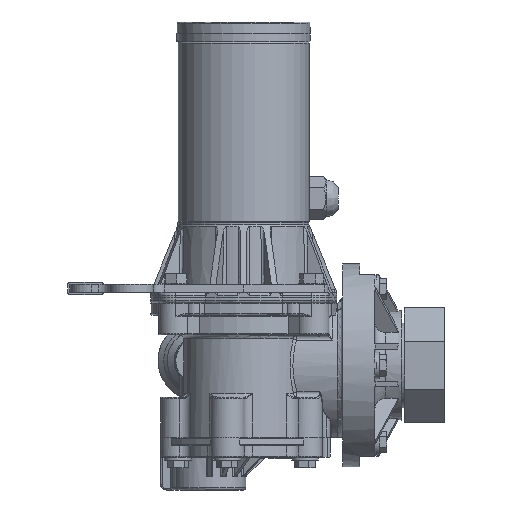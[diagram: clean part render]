
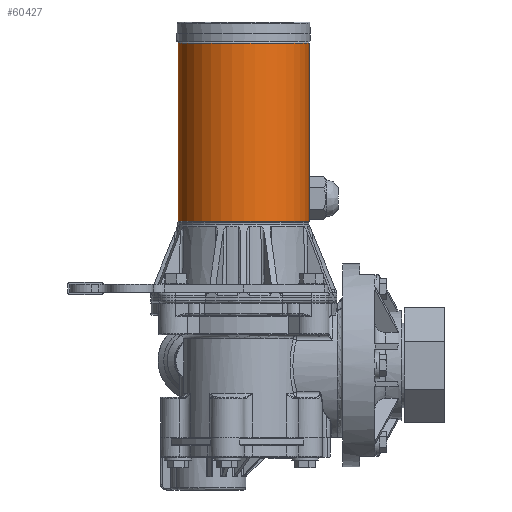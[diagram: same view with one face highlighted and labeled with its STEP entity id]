
A CAD part, left-side view. The second image highlights one B-rep face of the part: STEP entity #60427.
In plain terms, the highlighted cylindrical face has radius 38.976 mm (diameter 77.953 mm), a full revolution.
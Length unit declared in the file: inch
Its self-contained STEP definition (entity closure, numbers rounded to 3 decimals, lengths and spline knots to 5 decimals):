
#209=ELLIPSE('',#64048,4.48658,1.5345);
#210=ELLIPSE('',#64053,4.48658,1.5345);
#7540=LINE('',#112468,#12674);
#7544=LINE('',#112480,#12678);
#7546=LINE('',#112489,#12680);
#7547=LINE('',#112492,#12681);
#7548=LINE('',#112493,#12682);
#7549=LINE('',#112495,#12683);
#7550=LINE('',#112498,#12684);
#7551=LINE('',#112502,#12685);
#12674=VECTOR('',#75361,0.3937);
#12678=VECTOR('',#75375,0.3937);
#12680=VECTOR('',#75385,0.3937);
#12681=VECTOR('',#75388,1.5345);
#12682=VECTOR('',#75389,1.5345);
#12683=VECTOR('',#75390,0.3937);
#12684=VECTOR('',#75393,0.3937);
#12685=VECTOR('',#75396,0.3937);
#15978=FACE_OUTER_BOUND('',#19430,.T.);
#19430=EDGE_LOOP('',(#50448,#50449,#50450,#50451,#50452,#50453,#50454,#50455,
#50456,#50457,#50458,#50459,#50460,#50461,#50462,#50463,#50464,#50465,#50466,
#50467,#50468,#50469));
#21061=CIRCLE('',#64044,1.5345);
#21062=CIRCLE('',#64045,1.5345);
#21063=CIRCLE('',#64050,1.5345);
#21064=CIRCLE('',#64055,1.5345);
#21065=CIRCLE('',#64058,1.5345);
#21066=CIRCLE('',#64059,1.5345);
#21067=CIRCLE('',#64061,1.5345);
#21068=CIRCLE('',#64062,1.5345);
#21069=CIRCLE('',#64063,1.5345);
#21070=CIRCLE('',#64064,1.5345);
#27706=VERTEX_POINT('',#112428);
#27707=VERTEX_POINT('',#112430);
#27710=VERTEX_POINT('',#112438);
#27718=VERTEX_POINT('',#112457);
#27719=VERTEX_POINT('',#112458);
#27720=VERTEX_POINT('',#112463);
#27721=VERTEX_POINT('',#112467);
#27722=VERTEX_POINT('',#112471);
#27723=VERTEX_POINT('',#112475);
#27724=VERTEX_POINT('',#112479);
#27725=VERTEX_POINT('',#112483);
#27726=VERTEX_POINT('',#112487);
#27727=VERTEX_POINT('',#112488);
#27728=VERTEX_POINT('',#112490);
#27729=VERTEX_POINT('',#112494);
#27730=VERTEX_POINT('',#112496);
#27731=VERTEX_POINT('',#112499);
#27732=VERTEX_POINT('',#112501);
#35445=EDGE_CURVE('',#27706,#27707,#21061,.T.);
#35449=EDGE_CURVE('',#27710,#27706,#21062,.T.);
#35457=EDGE_CURVE('',#27718,#27719,#209,.T.);
#35460=EDGE_CURVE('',#27719,#27720,#21063,.T.);
#35462=EDGE_CURVE('',#27720,#27721,#7540,.T.);
#35464=EDGE_CURVE('',#27722,#27718,#210,.T.);
#35466=EDGE_CURVE('',#27723,#27722,#21064,.T.);
#35468=EDGE_CURVE('',#27724,#27723,#7544,.T.);
#35470=EDGE_CURVE('',#27721,#27725,#21065,.T.);
#35471=EDGE_CURVE('',#27725,#27724,#21066,.T.);
#35472=EDGE_CURVE('',#27726,#27727,#7546,.T.);
#35473=EDGE_CURVE('',#27728,#27727,#21067,.T.);
#35474=EDGE_CURVE('',#27728,#27718,#7547,.T.);
#35475=EDGE_CURVE('',#27725,#27706,#7548,.T.);
#35476=EDGE_CURVE('',#27710,#27729,#7549,.T.);
#35477=EDGE_CURVE('',#27729,#27730,#21068,.T.);
#35478=EDGE_CURVE('',#27730,#27707,#7550,.T.);
#35479=EDGE_CURVE('',#27731,#27728,#21069,.T.);
#35480=EDGE_CURVE('',#27731,#27732,#7551,.T.);
#35481=EDGE_CURVE('',#27732,#27726,#21070,.T.);
#50448=ORIENTED_EDGE('',*,*,#35472,.T.);
#50449=ORIENTED_EDGE('',*,*,#35473,.F.);
#50450=ORIENTED_EDGE('',*,*,#35474,.T.);
#50451=ORIENTED_EDGE('',*,*,#35457,.T.);
#50452=ORIENTED_EDGE('',*,*,#35460,.T.);
#50453=ORIENTED_EDGE('',*,*,#35462,.T.);
#50454=ORIENTED_EDGE('',*,*,#35470,.T.);
#50455=ORIENTED_EDGE('',*,*,#35475,.T.);
#50456=ORIENTED_EDGE('',*,*,#35449,.F.);
#50457=ORIENTED_EDGE('',*,*,#35476,.T.);
#50458=ORIENTED_EDGE('',*,*,#35477,.T.);
#50459=ORIENTED_EDGE('',*,*,#35478,.T.);
#50460=ORIENTED_EDGE('',*,*,#35445,.F.);
#50461=ORIENTED_EDGE('',*,*,#35475,.F.);
#50462=ORIENTED_EDGE('',*,*,#35471,.T.);
#50463=ORIENTED_EDGE('',*,*,#35468,.T.);
#50464=ORIENTED_EDGE('',*,*,#35466,.T.);
#50465=ORIENTED_EDGE('',*,*,#35464,.T.);
#50466=ORIENTED_EDGE('',*,*,#35474,.F.);
#50467=ORIENTED_EDGE('',*,*,#35479,.F.);
#50468=ORIENTED_EDGE('',*,*,#35480,.T.);
#50469=ORIENTED_EDGE('',*,*,#35481,.T.);
#54766=CYLINDRICAL_SURFACE('',#64060,1.5345);
#60427=ADVANCED_FACE('',(#15978),#54766,.T.);
#64044=AXIS2_PLACEMENT_3D('',#112431,#75333,#75334);
#64045=AXIS2_PLACEMENT_3D('',#112440,#75337,#75338);
#64048=AXIS2_PLACEMENT_3D('',#112459,#75350,#75351);
#64050=AXIS2_PLACEMENT_3D('',#112464,#75356,#75357);
#64053=AXIS2_PLACEMENT_3D('',#112472,#75365,#75366);
#64055=AXIS2_PLACEMENT_3D('',#112476,#75370,#75371);
#64058=AXIS2_PLACEMENT_3D('',#112484,#75379,#75380);
#64059=AXIS2_PLACEMENT_3D('',#112485,#75381,#75382);
#64060=AXIS2_PLACEMENT_3D('',#112486,#75383,#75384);
#64061=AXIS2_PLACEMENT_3D('',#112491,#75386,#75387);
#64062=AXIS2_PLACEMENT_3D('',#112497,#75391,#75392);
#64063=AXIS2_PLACEMENT_3D('',#112500,#75394,#75395);
#64064=AXIS2_PLACEMENT_3D('',#112503,#75397,#75398);
#75333=DIRECTION('center_axis',(0.,0.,
-1.));
#75334=DIRECTION('ref_axis',(-1.,0.,0.));
#75337=DIRECTION('center_axis',(0.,0.,
-1.));
#75338=DIRECTION('ref_axis',(-1.,0.,0.));
#75350=DIRECTION('center_axis',(0.,0.94,
0.342));
#75351=DIRECTION('ref_axis',(0.,-0.342,0.94));
#75356=DIRECTION('center_axis',(0.,0.,
-1.));
#75357=DIRECTION('ref_axis',(-1.,0.,0.));
#75361=DIRECTION('',(0.,0.,-1.));
#75365=DIRECTION('center_axis',(0.,-0.94,
0.342));
#75366=DIRECTION('ref_axis',(0.,-0.342,-0.94));
#75370=DIRECTION('center_axis',(0.,0.,
-1.));
#75371=DIRECTION('ref_axis',(-1.,0.,0.));
#75375=DIRECTION('',(0.,0.,1.));
#75379=DIRECTION('center_axis',(0.,0.,
-1.));
#75380=DIRECTION('ref_axis',(-1.,0.,0.));
#75381=DIRECTION('center_axis',(0.,0.,
-1.));
#75382=DIRECTION('ref_axis',(-1.,0.,0.));
#75383=DIRECTION('center_axis',(0.,0.,
1.));
#75384=DIRECTION('ref_axis',(-1.,0.,0.));
#75385=DIRECTION('',(0.,0.,1.));
#75386=DIRECTION('center_axis',(0.,0.,
1.));
#75387=DIRECTION('ref_axis',(-1.,0.,0.));
#75388=DIRECTION('',(0.,0.,-1.));
#75389=DIRECTION('',(0.,0.,-1.));
#75390=DIRECTION('',(0.,0.,1.));
#75391=DIRECTION('center_axis',(0.,0.,
1.));
#75392=DIRECTION('ref_axis',(-1.,0.,0.));
#75393=DIRECTION('',(0.,0.,-1.));
#75394=DIRECTION('center_axis',(0.,0.,
1.));
#75395=DIRECTION('ref_axis',(-1.,0.,0.));
#75396=DIRECTION('',(0.,0.,-1.));
#75397=DIRECTION('center_axis',(0.,0.,
-1.));
#75398=DIRECTION('ref_axis',(-1.,0.,0.));
#112428=CARTESIAN_POINT('',(1.5345,0.,2.194));
#112430=CARTESIAN_POINT('',(-0.004,1.53449,2.194));
#112431=CARTESIAN_POINT('Origin',(0.,0.,
2.194));
#112438=CARTESIAN_POINT('',(0.004,1.53449,2.194));
#112440=CARTESIAN_POINT('Origin',(0.,0.,
2.194));
#112457=CARTESIAN_POINT('',(1.5345,0.,6.289));
#112458=CARTESIAN_POINT('',(1.53315,0.06442,6.112));
#112459=CARTESIAN_POINT('Origin',(0.,0.,
6.289));
#112463=CARTESIAN_POINT('',(1.53443,0.015,6.112));
#112464=CARTESIAN_POINT('Origin',(0.,0.,
6.112));
#112467=CARTESIAN_POINT('',(1.53443,0.015,2.264));
#112468=CARTESIAN_POINT('',(1.53443,0.015,2.164));
#112471=CARTESIAN_POINT('',(1.53315,-0.06442,6.112));
#112472=CARTESIAN_POINT('Origin',(0.,0.,
6.289));
#112475=CARTESIAN_POINT('',(1.53443,-0.015,6.112));
#112476=CARTESIAN_POINT('Origin',(0.,0.,
6.112));
#112479=CARTESIAN_POINT('',(1.53443,-0.015,2.264));
#112480=CARTESIAN_POINT('',(1.53443,-0.015,2.164));
#112483=CARTESIAN_POINT('',(1.5345,0.,2.264));
#112484=CARTESIAN_POINT('Origin',(0.,0.,
2.264));
#112485=CARTESIAN_POINT('Origin',(0.,0.,
2.264));
#112486=CARTESIAN_POINT('Origin',(0.,0.,
2.164));
#112487=CARTESIAN_POINT('',(0.004,1.53449,6.264));
#112488=CARTESIAN_POINT('',(0.004,1.53449,6.359));
#112489=CARTESIAN_POINT('',(0.004,1.53449,2.164));
#112490=CARTESIAN_POINT('',(1.5345,0.,6.359));
#112491=CARTESIAN_POINT('Origin',(0.,0.,
6.359));
#112492=CARTESIAN_POINT('',(1.5345,0.,2.164));
#112493=CARTESIAN_POINT('',(1.5345,0.,2.164));
#112494=CARTESIAN_POINT('',(0.004,1.53449,2.489));
#112495=CARTESIAN_POINT('',(0.004,1.53449,2.164));
#112496=CARTESIAN_POINT('',(-0.004,1.53449,2.489));
#112497=CARTESIAN_POINT('Origin',(0.,0.,
2.489));
#112498=CARTESIAN_POINT('',(-0.004,1.53449,2.164));
#112499=CARTESIAN_POINT('',(-0.004,1.53449,6.359));
#112500=CARTESIAN_POINT('Origin',(0.,0.,
6.359));
#112501=CARTESIAN_POINT('',(-0.004,1.53449,6.264));
#112502=CARTESIAN_POINT('',(-0.004,1.53449,2.164));
#112503=CARTESIAN_POINT('Origin',(0.,0.,
6.264));
